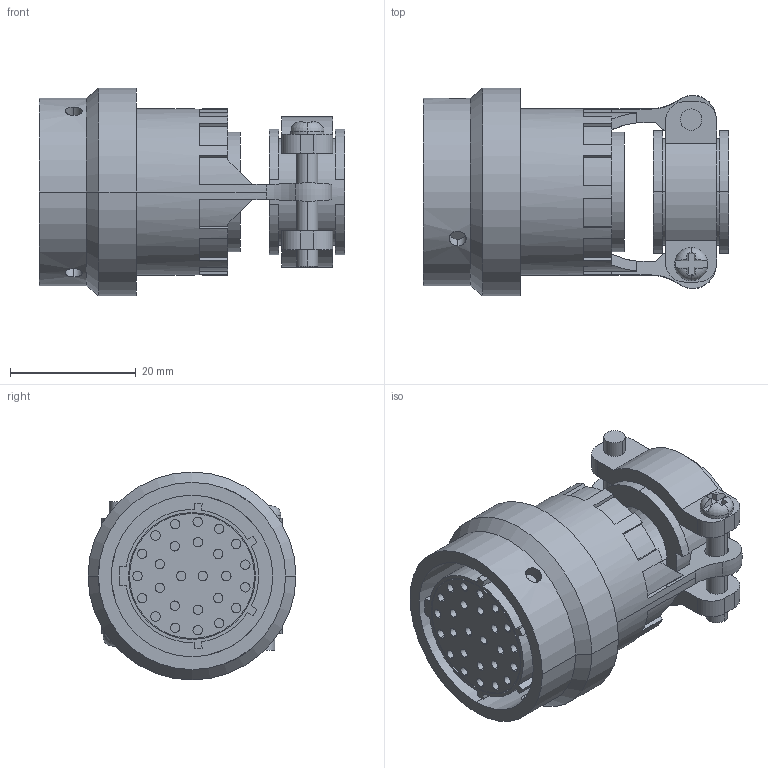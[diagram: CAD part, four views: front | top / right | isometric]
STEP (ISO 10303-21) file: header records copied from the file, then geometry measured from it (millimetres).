
FILE_DESCRIPTION (( 'STEP AP214' ), '1' );
FILE_NAME ('MS3116F16-26S.STEP', '2021-06-10T02:02:44', ( '微软用户' ), ( '微软中国' ), 'SwSTEP 2.0', 'SolidWorks 2018', '' );
FILE_SCHEMA (( 'AUTOMOTIVE_DESIGN' ));
Length unit declared in the file: millimetre
Products named in the file (1): MS3116F16-26S
Bounding box: 48.67 x 33.1 x 33.1 mm (x, y, z)
Volume: 21481.1 mm3; surface area: 12988.6 mm2
Topology: 2 solids, 2 shells, 314 faces, 804 edges, 533 vertices
Faces by surface type: plane 154, cylinder 137, torus 14, cone 9
Entity records: 10054 total; most frequent: CARTESIAN_POINT 2074, DIRECTION 1749, ORIENTED_EDGE 1608, EDGE_CURVE 804, AXIS2_PLACEMENT_3D 676, VERTEX_POINT 533, VECTOR 397, LINE 397
